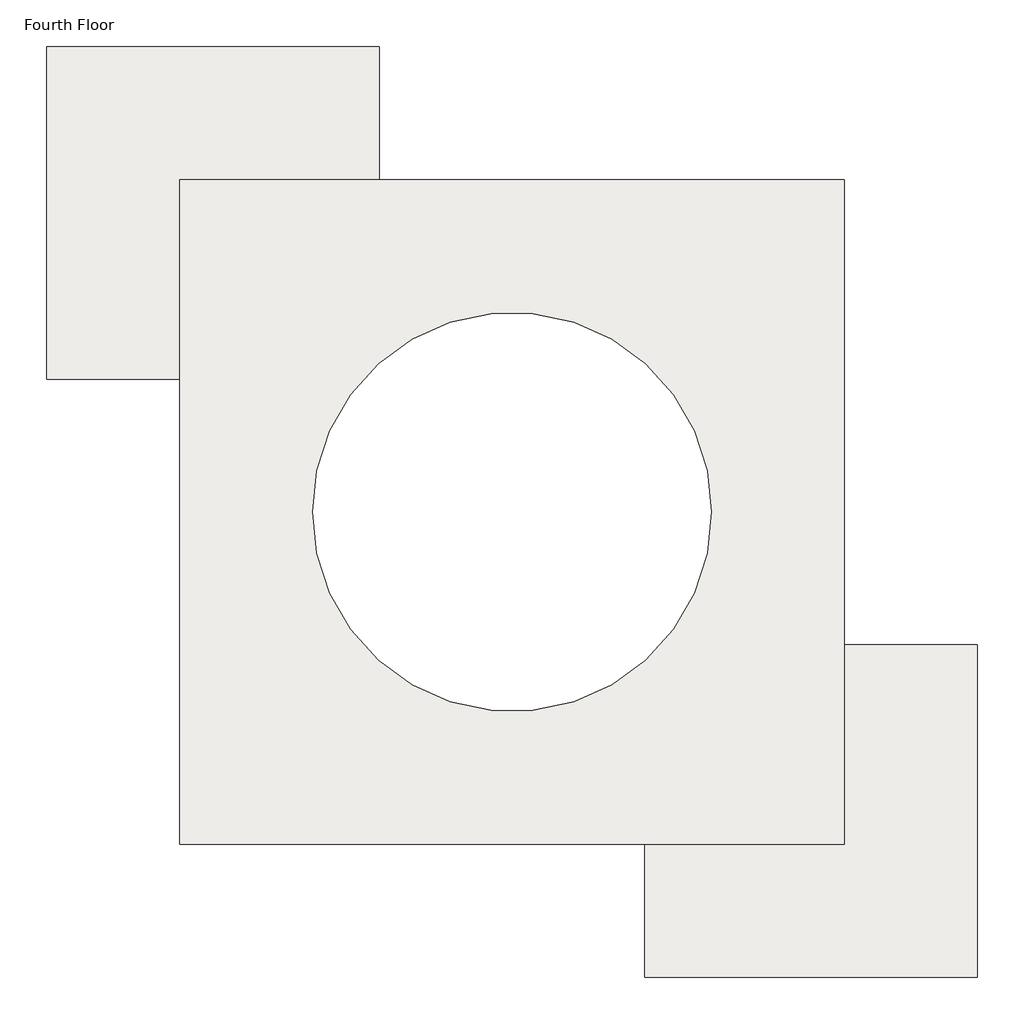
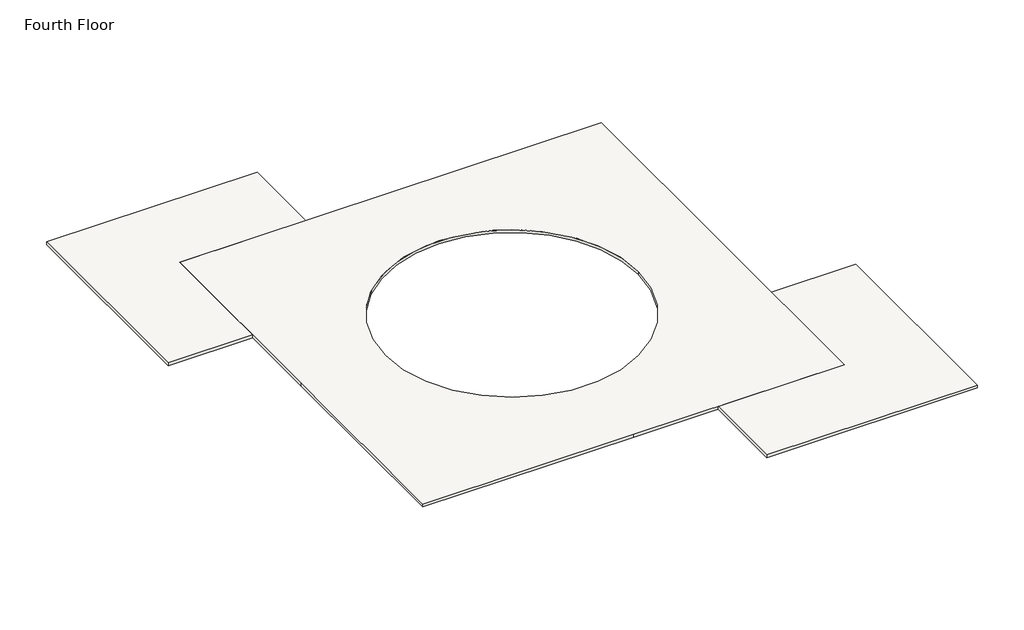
# One storey: 2 slabs.
"""IFC4 building model written with IfcOpenShell, lengths in millimetres."""

from ifc_helpers import new_model, si_unit, point, frame, frame_2d, origin, place, context, project, spatial, polyline, circle_curve, trimmed, segment, composite_curve, outline, extrude, element, save

model = new_model("IFC4")

# Units and contexts
model_context = context("Model", 3, world=origin())
ifc_project = project(units=[si_unit("LENGTHUNIT", "METRE", prefix="MILLI")], contexts=[model_context])

# Site, building, storey
site = spatial("IfcSite", under=ifc_project)
building = spatial("IfcBuilding", under=site)
storey = spatial("IfcBuildingStorey", under=building, Name="Fourth Floor", Elevation=9144.0)

# Slabs
placement = place(None, origin())
element("IfcSlab", 1, ObjectType="LW Concrete on Metal Deck", at=placement, inside=storey, context=model_context, shape_type="SweptSolid", body=[
    extrude(outline(polyline([(3931.5112389, 11572.2454612), (3931.5112389, -3667.7545388), (-3688.4887611, -3667.7545388), (-11308.4887611, -3667.7545388), (-11308.4887611, 3952.2454612), (-11308.4887611, 11572.2454612), (3931.5112389, 11572.2454612)]), holes=[composite_curve([segment(trimmed(circle_curve(frame_2d((-3688.4887611, 3952.2454612)), 4572.0), [point((883.5112389, 3952.2454612))], [point((-8260.4887611, 3952.2454612))], True, "CARTESIAN"), True, "CONTINUOUS"), segment(trimmed(circle_curve(frame_2d((-3688.4887611, 3952.2454612)), 4572.0), [point((-8260.4887611, 3952.2454612))], [point((883.5112389, 3952.2454612))], True, "CARTESIAN"), True, "CONTINUOUS")], self_intersect=False)]), frame((0.0, 0.0, 9039.225), z_axis=(0.0, 0.0, 1.0), x_axis=(1.0, 0.0, 0.0)), (0.0, 0.0, 1.0), 104.775),
])
element("IfcSlab", 2, ObjectType="LW Concrete on Metal Deck", at=placement, inside=storey, context=model_context, shape_type="SweptSolid", body=[
    extrude(outline(polyline([(-6736.4887611, 14620.2454612), (-6736.4887611, 11572.2454612), (-11308.4887611, 11572.2454612), (-11308.4887611, 7000.2454612), (-14356.4887611, 7000.2454612), (-14356.4887611, 14620.2454612), (-6736.4887611, 14620.2454612)])), frame((0.0, 0.0, 9039.225), z_axis=(0.0, 0.0, 1.0), x_axis=(1.0, 0.0, 0.0)), (0.0, 0.0, 1.0), 104.775),
    extrude(outline(polyline([(6979.5112389, 904.2454612), (6979.5112389, -6715.7545388), (-640.4887611, -6715.7545388), (-640.4887611, -3667.7545388), (3931.5112389, -3667.7545388), (3931.5112389, 904.2454612), (6979.5112389, 904.2454612)])), frame((0.0, 0.0, 9039.225), z_axis=(0.0, 0.0, 1.0), x_axis=(1.0, 0.0, 0.0)), (0.0, 0.0, 1.0), 104.775),
])

save(model, "model.ifc")
